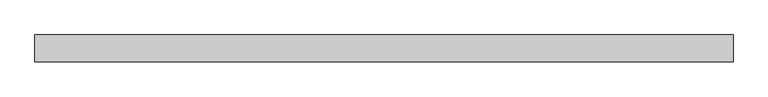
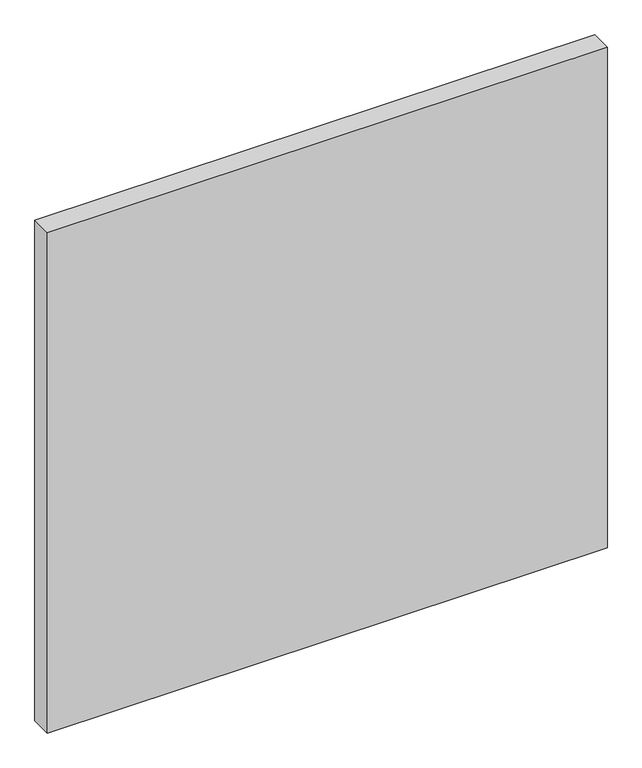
"""IFC4 building model written with IfcOpenShell, lengths in millimetres: plate geometry, Panneau système : Vitré."""

from ifc_helpers import new_model, si_unit, origin, origin_with_axes, place, context, project, spatial, polyline, outline, extrude, source, transform, mapped, element, save


def plate_d307b216(model_context):
    return source(origin(), model_context, "Body", "SweptSolid", [
        extrude(outline(polyline([(521.6427249, -20.0), (-521.6427249, -20.0), (-521.6427249, 20.0), (521.6427249, 20.0), (521.6427249, -20.0)])), origin_with_axes(), (0.0, 0.0, 1.0), 985.0),
    ])


if __name__ == "__main__":
    model = new_model("IFC4")
    model_context = context("Model", 3, world=origin())
    ifc_project = project(units=[si_unit("LENGTHUNIT", "METRE", prefix="MILLI")], contexts=[model_context])
    site = spatial("IfcSite", under=ifc_project)
    building = spatial("IfcBuilding", under=site)
    placement = place(None, origin())
    plate_shape = plate_d307b216(model_context)
    element("IfcPlate", 1, ObjectType="Panneau système : Vitré", at=placement, inside=building, context=model_context, shape_type="MappedRepresentation", body=[
        mapped(plate_shape, transform((0.0, 0.0, 0.0), x_axis=(1.0, 0.0, 0.0), y_axis=(0.0, 1.0, 0.0), z_axis=(0.0, 0.0, 1.0))),
    ])
    save(model, "model.ifc")
